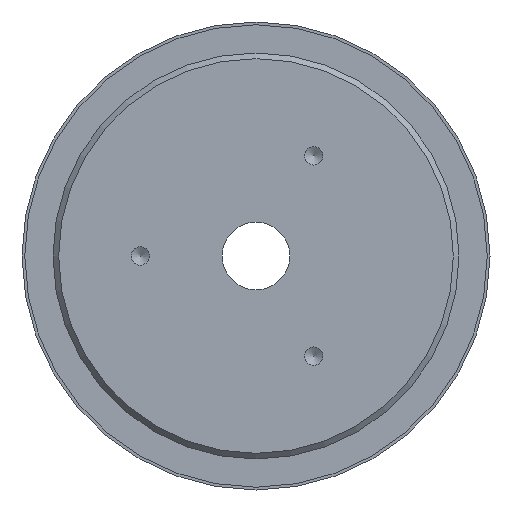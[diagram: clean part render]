
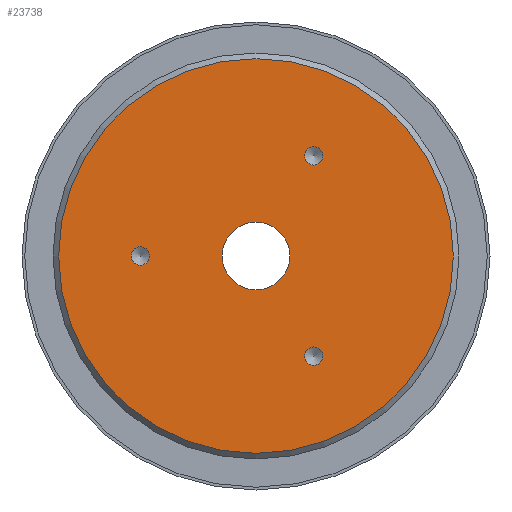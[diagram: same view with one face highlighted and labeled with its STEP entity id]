
A CAD part, left-side view. The second image highlights one B-rep face of the part: STEP entity #23738.
In plain terms, the highlighted planar face has unit normal (-1, 0, 0).
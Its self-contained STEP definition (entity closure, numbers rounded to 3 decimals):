
#4319=FACE_BOUND('',#6123,.T.);
#4320=FACE_BOUND('',#6124,.T.);
#4321=FACE_BOUND('',#6125,.T.);
#4322=FACE_BOUND('',#6126,.T.);
#4882=FACE_OUTER_BOUND('',#6122,.T.);
#6122=EDGE_LOOP('',(#16302));
#6123=EDGE_LOOP('',(#16303,#16304));
#6124=EDGE_LOOP('',(#16305,#16306));
#6125=EDGE_LOOP('',(#16307,#16308));
#6126=EDGE_LOOP('',(#16309,#16310));
#7131=CIRCLE('',#26052,1.621);
#7132=CIRCLE('',#26053,1.621);
#7135=CIRCLE('',#26058,1.621);
#7136=CIRCLE('',#26059,1.621);
#7139=CIRCLE('',#26064,1.621);
#7140=CIRCLE('',#26065,1.621);
#7141=CIRCLE('',#26067,35.);
#7142=CIRCLE('',#26069,6.);
#7143=CIRCLE('',#26070,6.);
#8635=VERTEX_POINT('',#39506);
#8636=VERTEX_POINT('',#39507);
#8640=VERTEX_POINT('',#39519);
#8641=VERTEX_POINT('',#39520);
#8645=VERTEX_POINT('',#39532);
#8646=VERTEX_POINT('',#39533);
#8647=VERTEX_POINT('',#39538);
#8648=VERTEX_POINT('',#39542);
#8649=VERTEX_POINT('',#39543);
#11581=EDGE_CURVE('',#8635,#8636,#7131,.T.);
#11582=EDGE_CURVE('',#8636,#8635,#7132,.T.);
#11587=EDGE_CURVE('',#8640,#8641,#7135,.T.);
#11588=EDGE_CURVE('',#8641,#8640,#7136,.T.);
#11593=EDGE_CURVE('',#8645,#8646,#7139,.T.);
#11594=EDGE_CURVE('',#8646,#8645,#7140,.T.);
#11597=EDGE_CURVE('',#8647,#8647,#7141,.T.);
#11598=EDGE_CURVE('',#8648,#8649,#7142,.T.);
#11599=EDGE_CURVE('',#8649,#8648,#7143,.T.);
#16302=ORIENTED_EDGE('',*,*,#11597,.F.);
#16303=ORIENTED_EDGE('',*,*,#11581,.T.);
#16304=ORIENTED_EDGE('',*,*,#11582,.T.);
#16305=ORIENTED_EDGE('',*,*,#11587,.T.);
#16306=ORIENTED_EDGE('',*,*,#11588,.T.);
#16307=ORIENTED_EDGE('',*,*,#11593,.T.);
#16308=ORIENTED_EDGE('',*,*,#11594,.T.);
#16309=ORIENTED_EDGE('',*,*,#11598,.T.);
#16310=ORIENTED_EDGE('',*,*,#11599,.T.);
#21428=PLANE('',#26068);
#23738=ADVANCED_FACE('',(#4882,#4319,#4320,#4321,#4322),#21428,.T.);
#26052=AXIS2_PLACEMENT_3D('',#39508,#31689,#31690);
#26053=AXIS2_PLACEMENT_3D('',#39509,#31691,#31692);
#26058=AXIS2_PLACEMENT_3D('',#39521,#31703,#31704);
#26059=AXIS2_PLACEMENT_3D('',#39522,#31705,#31706);
#26064=AXIS2_PLACEMENT_3D('',#39534,#31717,#31718);
#26065=AXIS2_PLACEMENT_3D('',#39535,#31719,#31720);
#26067=AXIS2_PLACEMENT_3D('',#39540,#31725,#31726);
#26068=AXIS2_PLACEMENT_3D('',#39541,#31727,#31728);
#26069=AXIS2_PLACEMENT_3D('',#39544,#31729,#31730);
#26070=AXIS2_PLACEMENT_3D('',#39545,#31731,#31732);
#31689=DIRECTION('center_axis',(1.,0.,0.));
#31690=DIRECTION('ref_axis',(0.,0.,1.));
#31691=DIRECTION('center_axis',(1.,0.,0.));
#31692=DIRECTION('ref_axis',(0.,0.,1.));
#31703=DIRECTION('center_axis',(1.,0.,0.));
#31704=DIRECTION('ref_axis',(0.,0.,1.));
#31705=DIRECTION('center_axis',(1.,0.,0.));
#31706=DIRECTION('ref_axis',(0.,0.,1.));
#31717=DIRECTION('center_axis',(1.,0.,0.));
#31718=DIRECTION('ref_axis',(0.,0.,1.));
#31719=DIRECTION('center_axis',(1.,0.,0.));
#31720=DIRECTION('ref_axis',(0.,0.,1.));
#31725=DIRECTION('center_axis',(1.,0.,0.));
#31726=DIRECTION('ref_axis',(0.,-1.,0.));
#31727=DIRECTION('center_axis',(-1.,0.,0.));
#31728=DIRECTION('ref_axis',(0.,0.,1.));
#31729=DIRECTION('center_axis',(1.,0.,0.));
#31730=DIRECTION('ref_axis',(0.,1.,0.));
#31731=DIRECTION('center_axis',(1.,0.,0.));
#31732=DIRECTION('ref_axis',(0.,1.,0.));
#39506=CARTESIAN_POINT('',(-12.1,-10.25,19.375));
#39507=CARTESIAN_POINT('',(-12.1,-10.25,16.133));
#39508=CARTESIAN_POINT('Origin',(-12.1,-10.25,17.754));
#39509=CARTESIAN_POINT('Origin',(-12.1,-10.25,17.754));
#39519=CARTESIAN_POINT('',(-12.1,-10.25,-16.133));
#39520=CARTESIAN_POINT('',(-12.1,-10.25,-19.375));
#39521=CARTESIAN_POINT('Origin',(-12.1,-10.25,-17.754));
#39522=CARTESIAN_POINT('Origin',(-12.1,-10.25,-17.754));
#39532=CARTESIAN_POINT('',(-12.1,20.5,1.621));
#39533=CARTESIAN_POINT('',(-12.1,20.5,-1.621));
#39534=CARTESIAN_POINT('Origin',(-12.1,20.5,0.));
#39535=CARTESIAN_POINT('Origin',(-12.1,20.5,0.));
#39538=CARTESIAN_POINT('',(-12.1,35.,0.));
#39540=CARTESIAN_POINT('Origin',(-12.1,0.,0.));
#39541=CARTESIAN_POINT('Origin',(-12.1,21.,0.));
#39542=CARTESIAN_POINT('',(-12.1,6.,0.));
#39543=CARTESIAN_POINT('',(-12.1,-6.,0.));
#39544=CARTESIAN_POINT('Origin',(-12.1,0.,0.));
#39545=CARTESIAN_POINT('Origin',(-12.1,0.,0.));
